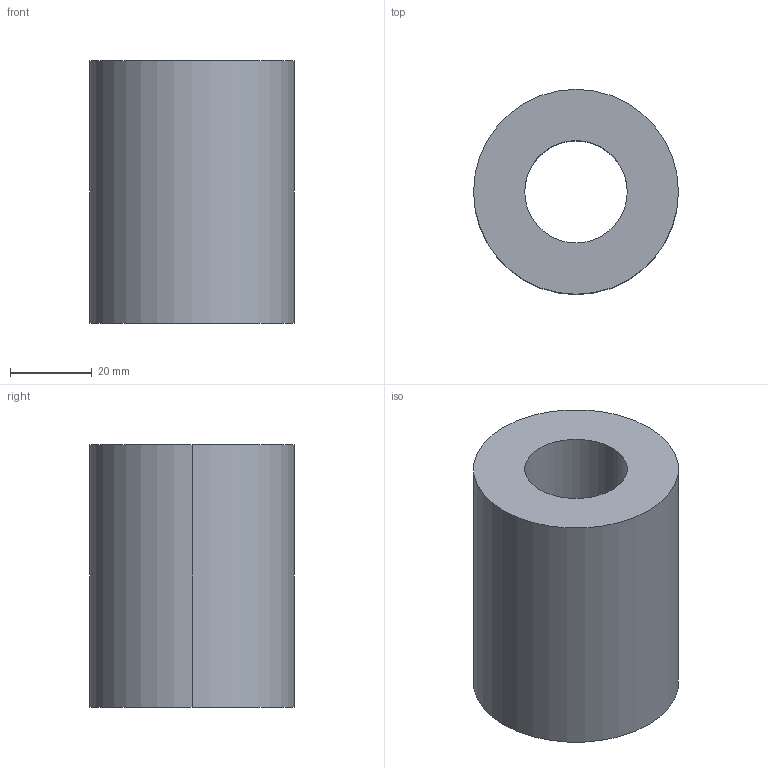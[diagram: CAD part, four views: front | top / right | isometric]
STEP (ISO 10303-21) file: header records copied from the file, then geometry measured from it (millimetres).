
FILE_DESCRIPTION (( 'STEP AP214' ), '1' );
FILE_NAME ('BRA-50X064.STEP', '2020-07-20T11:57:04', ( 'August' ), ( '' ), 'SwSTEP 2.0', 'SolidWorks 2018', '' );
FILE_SCHEMA (( 'AUTOMOTIVE_DESIGN' ));
Length unit declared in the file: millimetre
Products named in the file (1): BRA-50X064
Bounding box: 50 x 50 x 64 mm (x, y, z)
Volume: 94247.8 mm3; surface area: 18024.9 mm2
Topology: 1 solids, 1 shells, 6 faces, 12 edges, 8 vertices
Faces by surface type: cylinder 4, plane 2
Entity records: 202 total; most frequent: DIRECTION 34, CARTESIAN_POINT 27, ORIENTED_EDGE 24, AXIS2_PLACEMENT_3D 15, EDGE_CURVE 12, CIRCLE 8, EDGE_LOOP 8, VERTEX_POINT 8
